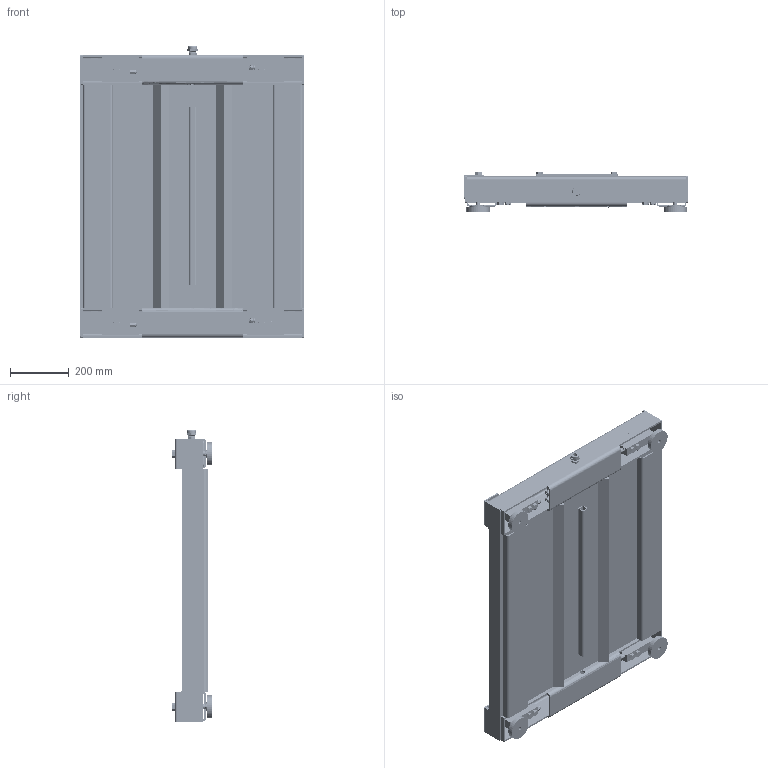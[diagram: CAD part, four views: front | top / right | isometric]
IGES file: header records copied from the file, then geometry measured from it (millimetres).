
Start section: SolidWorks IGES file using analytic representation for surfaces
Global section: file name: C:\0_Work\SolidWorks\HI DS Drum Scales\Drum_Scale_HIDS-3030 Series.IGS; native system: SolidWorks 2023; preprocessor: SolidWorks 2023; author: vach01; date: 240320.140438; units: inch
Bounding box: 766.76 x 137.27 x 993.77 mm (x, y, z)
Surface area: 3862971.4 mm2 (no closed solid volume)
Topology: 0 solids, 0 shells, 20695 faces, 182599 edges, 182239 vertices
Faces by surface type: bspline 13386, revolution 7309
